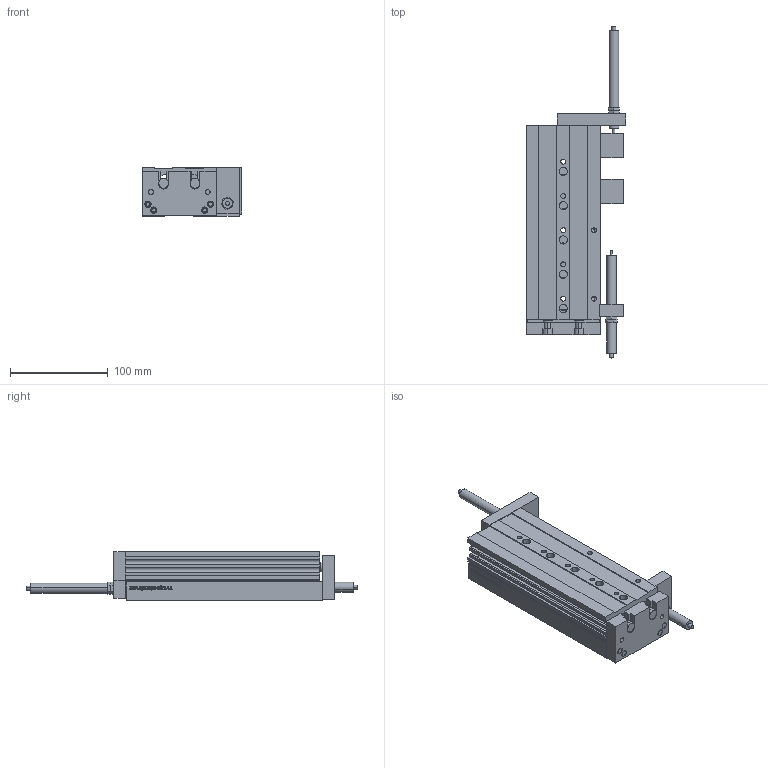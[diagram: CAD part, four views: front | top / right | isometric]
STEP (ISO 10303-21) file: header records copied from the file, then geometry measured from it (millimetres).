
FILE_DESCRIPTION (( 'STEP AP203' ), '1' );
FILE_NAME ('GDX 20-100.STEP', '2013-02-27T13:36:40', ( 'Conseil Régional Haute-Normandie' ), ( 'Conseil Régional Haute-Normandie' ), 'SwSTEP 2.0', 'SolidWorks 2010', '' );
FILE_SCHEMA (( 'CONFIG_CONTROL_DESIGN' ));
Length unit declared in the file: millimetre
Products named in the file (14): Pièce1 GDX 20-10_Default; Pièce7 GDX 20-10_Default; Pièce15 GDX 20-10_Default; Pièce3 GDX 20-10_Default; GDX 20-100; Pièce2 GDX 20-10_Default; Pièce11 GDX 20-100_Default; Pièce13 GDX 20-100_Default; Pièce 12 GDX 20-100_Default; Pièce 10 GDX 20-100_Default; Pièce14 GDX 20-10_Default; Pièce16 GDX 20-10_Default; Pièce4 GDX 20-100_Default; Pièce9 GDX 20-100_Default
Assembly tree (32 placements, depth 2):
  GDX 20-100
    Pièce15 GDX 20-10_Default  x10
    Pièce4 GDX 20-100_Default  x2
    Pièce3 GDX 20-10_Default  x2
    Pièce 12 GDX 20-100_Default
    Pièce16 GDX 20-10_Default  x4
    Pièce9 GDX 20-100_Default  x2
    Pièce14 GDX 20-10_Default  x4
    Pièce13 GDX 20-100_Default  x2
    Pièce11 GDX 20-100_Default
    Pièce1 GDX 20-10_Default
    Pièce 10 GDX 20-100_Default
    Pièce2 GDX 20-10_Default
    Pièce7 GDX 20-10_Default
Bounding box: 102 x 339.19 x 50 mm (x, y, z)
Volume: 687336.3 mm3; surface area: 210230.8 mm2
Topology: 32 solids, 32 shells, 836 faces, 2110 edges, 1372 vertices
Faces by surface type: plane 409, cylinder 254, bspline 133, cone 40
Entity records: 32736 total; most frequent: CARTESIAN_POINT 14509, ORIENTED_EDGE 3492, DIRECTION 2986, EDGE_CURVE 1746, VERTEX_POINT 1156, VECTOR 1124, LINE 1124, AXIS2_PLACEMENT_3D 931
